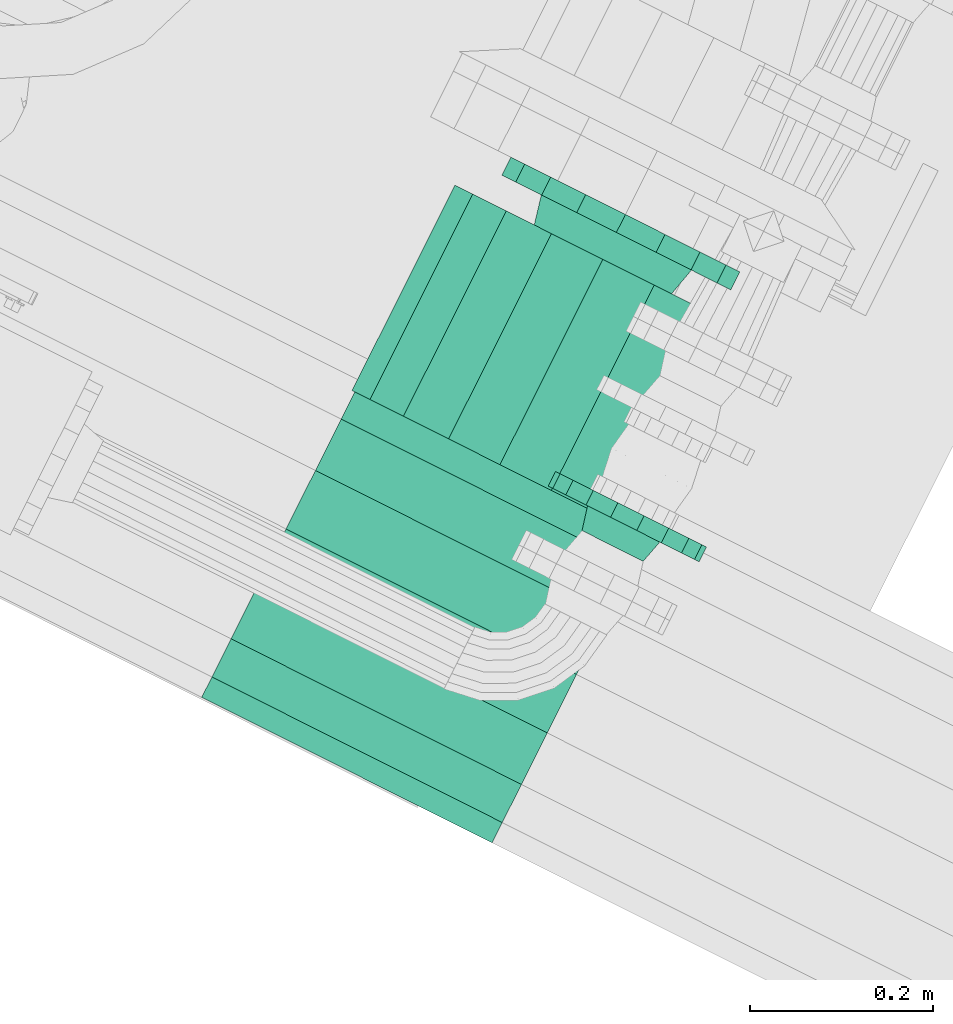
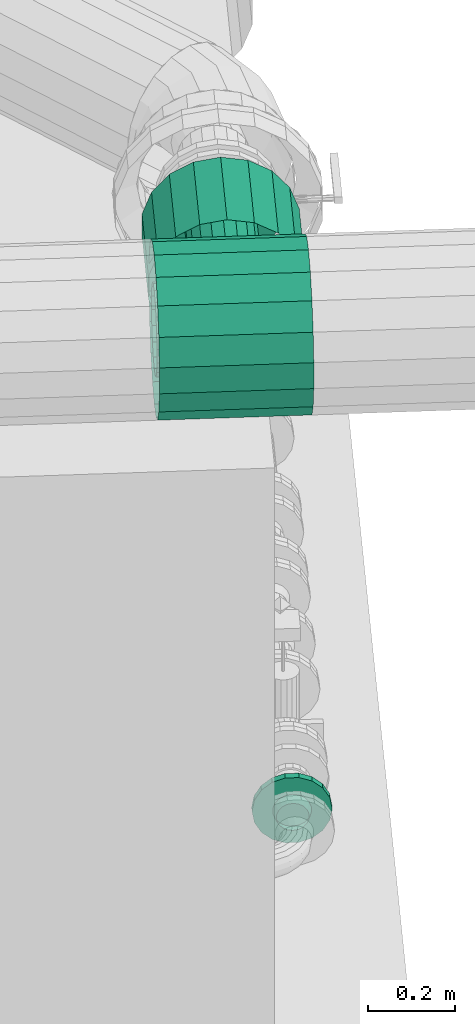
# One storey, part 53 of 206: 3 flow fittings, 1 flow segment.
"""IFC2X3 building model written with IfcOpenShell, lengths in metres."""

from ifc_helpers import new_model, si_unit, derived_unit, direction, frame, origin, place, context, subcontext, project, spatial, face_set, surface_model, source, transform, mapped, material, type_object, type_shapes, element, save


model = new_model("IFC2X3")

# Units and contexts
model_context = context("Model", 3, precision=5.2338327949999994e-05, world=origin(), true_north=direction((0.0, 1.0)))
body_context = subcontext(model_context, "Body", "Model", "MODEL_VIEW")
ifc_project = project(units=[si_unit("LENGTHUNIT", "METRE"), si_unit("AREAUNIT", "SQUARE_METRE"), si_unit("VOLUMEUNIT", "CUBIC_METRE"), si_unit("MASSUNIT", "GRAM", prefix="KILO"), si_unit("PLANEANGLEUNIT", "RADIAN"), derived_unit("THERMALTRANSMITTANCEUNIT", [(si_unit("MASSUNIT", "GRAM", prefix="KILO"), 1), (si_unit("THERMODYNAMICTEMPERATUREUNIT", "KELVIN"), -1), (si_unit("TIMEUNIT", "SECOND"), -3)])], contexts=[model_context])

# Site, building, storey
site_placement = place(None, frame((0.0, 0.0, 0.0), z_axis=(0.0, 0.0, 1.0), x_axis=(0.8939966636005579, -0.4480736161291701, 0.0)))
site = spatial("IfcSite", under=ifc_project, at=site_placement, Name="Default", CompositionType="ELEMENT")
building_placement = place(site_placement, origin())
building = spatial("IfcBuilding", under=site, at=building_placement, CompositionType="ELEMENT")
storey_placement = place(building_placement, origin())
storey = spatial("IfcBuildingStorey", under=building, at=storey_placement, Name="Erdgeschoss", CompositionType="ELEMENT", Elevation=0.0)

# Flow fittings
ifc_material_1 = material(Name="IfcSurfaceStyle #9317")
distribution_element_type_1 = type_object("IfcDistributionElementType", Name="Flansch 343454:Flansch 343454", material=ifc_material_1)
shared_shape_1 = source(origin(), body_context, "Body", "SurfaceModel", [
    surface_model("IfcFaceBasedSurfaceModel", [(27.295400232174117, 5.343912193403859, 2.4965000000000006), (27.24666236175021, 5.343912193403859, 2.4879061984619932), (27.24666236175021, 5.3219121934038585, 2.4879061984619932), (27.295400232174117, 5.3219121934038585, 2.4965000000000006), (27.20380299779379, 5.343912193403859, 2.463161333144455), (27.20380299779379, 5.3219121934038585, 2.463161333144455), (27.171991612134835, 5.343912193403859, 2.4252500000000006), (27.171991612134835, 5.3219121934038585, 2.4252500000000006), (27.155065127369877, 5.343912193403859, 2.378744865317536), (27.155065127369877, 5.3219121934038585, 2.378744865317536), (27.155065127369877, 5.343912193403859, 2.329255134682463), (27.155065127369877, 5.3219121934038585, 2.329255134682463), (27.171991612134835, 5.343912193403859, 2.2827499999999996), (27.171991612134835, 5.3219121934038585, 2.2827499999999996), (27.203802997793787, 5.343912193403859, 2.2448386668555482), (27.203802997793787, 5.3219121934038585, 2.2448386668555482), (27.246662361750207, 5.343912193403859, 2.2200938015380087), (27.246662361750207, 5.3219121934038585, 2.2200938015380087), (27.295400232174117, 5.343912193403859, 2.211500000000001), (27.295400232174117, 5.3219121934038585, 2.211500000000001), (27.344138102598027, 5.343912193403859, 2.2200938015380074), (27.344138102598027, 5.3219121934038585, 2.2200938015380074), (27.386997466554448, 5.343912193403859, 2.244838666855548), (27.386997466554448, 5.3219121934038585, 2.244838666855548), (27.4188088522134, 5.343912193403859, 2.2827500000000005), (27.4188088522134, 5.3219121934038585, 2.2827500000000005), (27.435735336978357, 5.343912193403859, 2.3292551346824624), (27.435735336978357, 5.3219121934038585, 2.3292551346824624), (27.435735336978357, 5.343912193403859, 2.378744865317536), (27.435735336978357, 5.3219121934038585, 2.378744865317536), (27.418808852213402, 5.343912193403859, 2.425249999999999), (27.418808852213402, 5.3219121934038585, 2.425249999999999), (27.38699746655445, 5.343912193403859, 2.4631613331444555), (27.38699746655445, 5.3219121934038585, 2.4631613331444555), (27.344138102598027, 5.343912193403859, 2.4879061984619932), (27.344138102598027, 5.3219121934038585, 2.4879061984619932), (27.295400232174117, 5.3219121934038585, 2.3539999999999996), (27.203400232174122, 5.3219121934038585, 2.354000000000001), (27.208948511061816, 5.3219121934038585, 2.3225341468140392), (27.216325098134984, 5.28891219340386, 2.325219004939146), (27.21125023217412, 5.288912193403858, 2.353999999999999), (27.224924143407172, 5.3219121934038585, 2.294863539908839), (27.23093759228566, 5.28891219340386, 2.299909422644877), (27.249400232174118, 5.3219121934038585, 2.274325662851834), (27.25332523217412, 5.28891219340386, 2.2811239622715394), (27.27942459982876, 5.3219121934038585, 2.2633976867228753), (27.28078773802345, 5.28891219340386, 2.2711284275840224), (27.31137586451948, 5.3219121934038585, 2.2633976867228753), (27.310012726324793, 5.28891219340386, 2.271128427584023), (27.34140023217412, 5.3219121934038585, 2.274325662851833), (27.337475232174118, 5.28891219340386, 2.281123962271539), (27.365876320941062, 5.321912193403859, 2.294863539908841), (27.35986287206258, 5.288912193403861, 2.29990942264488), (27.38185195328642, 5.321912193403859, 2.3225341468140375), (27.374475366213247, 5.288912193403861, 2.325219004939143), (27.38740023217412, 5.3219121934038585, 2.353999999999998), (27.379550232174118, 5.28891219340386, 2.3539999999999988), (27.38185195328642, 5.3219121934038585, 2.3854658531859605), (27.374475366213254, 5.28891219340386, 2.382780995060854), (27.365876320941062, 5.3219121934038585, 2.4131364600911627), (27.35986287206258, 5.28891219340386, 2.408090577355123), (27.34140023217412, 5.3219121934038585, 2.4336743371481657), (27.33747523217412, 5.28891219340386, 2.4268760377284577), (27.31137586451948, 5.3219121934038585, 2.444602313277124), (27.310012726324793, 5.28891219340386, 2.436871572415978), (27.279424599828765, 5.3219121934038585, 2.4446023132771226), (27.28078773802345, 5.28891219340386, 2.436871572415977), (27.249400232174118, 5.3219121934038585, 2.4336743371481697), (27.25332523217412, 5.28891219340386, 2.42687603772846), (27.224924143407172, 5.3219121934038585, 2.4131364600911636), (27.230937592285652, 5.28891219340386, 2.4080905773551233), (27.208948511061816, 5.3219121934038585, 2.3854658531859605), (27.216325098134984, 5.28891219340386, 2.382780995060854)], [face_set([[[0, 1, 2, 3]], [[1, 4, 5, 2]], [[4, 6, 7, 5]], [[6, 8, 9, 7]], [[8, 10, 11, 9]], [[10, 12, 13, 11]], [[12, 14, 15, 13]], [[14, 16, 17, 15]], [[16, 18, 19, 17]], [[18, 20, 21, 19]], [[20, 22, 23, 21]], [[22, 24, 25, 23]], [[24, 26, 27, 25]], [[26, 28, 29, 27]], [[28, 30, 31, 29]], [[30, 32, 33, 31]], [[32, 34, 35, 33]], [[34, 0, 3, 35]], [[36, 35, 3]], [[36, 33, 35]], [[36, 31, 33]], [[36, 29, 31]], [[36, 27, 29]], [[36, 25, 27]], [[36, 23, 25]], [[36, 21, 23]], [[36, 19, 21]], [[36, 17, 19]], [[36, 15, 17]], [[36, 13, 15]], [[36, 11, 13]], [[36, 9, 11]], [[36, 7, 9]], [[36, 5, 7]], [[36, 2, 5]], [[36, 3, 2]], [[37, 38, 39, 40]], [[38, 41, 42, 39]], [[41, 43, 44, 42]], [[43, 45, 46, 44]], [[45, 47, 48, 46]], [[47, 49, 50, 48]], [[49, 51, 52, 50]], [[51, 53, 54, 52]], [[53, 55, 56, 54]], [[55, 57, 58, 56]], [[57, 59, 60, 58]], [[59, 61, 62, 60]], [[61, 63, 64, 62]], [[63, 65, 66, 64]], [[65, 67, 68, 66]], [[67, 69, 70, 68]], [[69, 71, 72, 70]], [[71, 37, 40, 72]]])]),
])
type_shapes(distribution_element_type_1, [shared_shape_1])
flow_fitting_1_placement = place(storey_placement, origin())
element("IfcFlowFitting", 1, at=flow_fitting_1_placement, inside=storey, type_object=distribution_element_type_1, material=ifc_material_1, Name="Flansch", ObjectType="Flansch", context=body_context, shape_type="MappedRepresentation", body=[
    mapped(shared_shape_1, transform((0.0, 0.0, 0.0), scale=1.0)),
])
distribution_element_type_2 = type_object("IfcDistributionElementType", Name="Abzweigstück 343500:Abzweigstück 343500", material=ifc_material_1)
shared_shape_2 = source(origin(), body_context, "Body", "SurfaceModel", [
    surface_model("IfcFaceBasedSurfaceModel", [(27.47340023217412, 4.869312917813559, 2.2444499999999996), (27.47340023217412, 4.831844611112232, 2.251056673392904), (27.11740023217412, 4.831844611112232, 2.251056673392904), (27.11740023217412, 4.869312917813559, 2.2444499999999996), (27.47340023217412, 4.7988955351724, 2.270079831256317), (27.11740023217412, 4.7988955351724, 2.270079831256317), (27.47340023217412, 4.774439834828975, 2.299225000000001), (27.11740023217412, 4.774439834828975, 2.299225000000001), (27.47340023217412, 4.761427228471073, 2.3349768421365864), (27.11740023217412, 4.761427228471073, 2.3349768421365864), (27.47340023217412, 4.761427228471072, 2.3730231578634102), (27.11740023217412, 4.761427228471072, 2.3730231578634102), (27.47340023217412, 4.774439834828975, 2.4087750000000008), (27.11740023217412, 4.774439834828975, 2.4087750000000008), (27.47340023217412, 4.7988955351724, 2.437920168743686), (27.11740023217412, 4.7988955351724, 2.437920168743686), (27.47340023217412, 4.831844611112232, 2.4569433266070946), (27.11740023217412, 4.831844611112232, 2.4569433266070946), (27.47340023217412, 4.869312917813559, 2.4635500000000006), (27.11740023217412, 4.869312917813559, 2.4635500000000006), (27.47340023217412, 4.906781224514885, 2.456943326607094), (27.11740023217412, 4.906781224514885, 2.456943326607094), (27.47340023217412, 4.93973030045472, 2.4379201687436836), (27.11740023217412, 4.93973030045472, 2.4379201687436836), (27.47340023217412, 4.9641860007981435, 2.4087749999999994), (27.11740023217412, 4.9641860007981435, 2.4087749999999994), (27.47340023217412, 4.977198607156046, 2.3730231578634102), (27.11740023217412, 4.977198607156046, 2.3730231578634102), (27.47340023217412, 4.977198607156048, 2.334976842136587), (27.11740023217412, 4.977198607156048, 2.334976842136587), (27.47340023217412, 4.9641860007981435, 2.299225), (27.11740023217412, 4.9641860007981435, 2.299225), (27.47340023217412, 4.939730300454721, 2.270079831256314), (27.11740023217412, 4.939730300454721, 2.270079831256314), (27.47340023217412, 4.906781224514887, 2.2510566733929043), (27.11740023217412, 4.906781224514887, 2.2510566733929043), (27.211250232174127, 4.97886291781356, 2.3539999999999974), (27.21632509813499, 4.975014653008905, 2.3827809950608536), (27.216325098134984, 5.0373129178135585, 2.3827809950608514), (27.211250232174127, 5.0373129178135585, 2.3539999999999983), (27.23093759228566, 4.964577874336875, 2.4080905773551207), (27.23093759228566, 5.037312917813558, 2.4080905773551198), (27.25332523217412, 4.951107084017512, 2.4268760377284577), (27.25332523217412, 5.0373129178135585, 2.4268760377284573), (27.28078773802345, 4.940961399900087, 2.436871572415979), (27.28078773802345, 5.0373129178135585, 2.4368715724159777), (27.310012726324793, 4.940961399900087, 2.436871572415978), (27.310012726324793, 5.0373129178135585, 2.436871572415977), (27.337475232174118, 4.951107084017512, 2.426876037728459), (27.337475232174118, 5.0373129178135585, 2.426876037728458), (27.359862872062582, 4.964577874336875, 2.408090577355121), (27.359862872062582, 5.037312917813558, 2.4080905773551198), (27.374475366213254, 4.975014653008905, 2.3827809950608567), (27.374475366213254, 5.0373129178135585, 2.382780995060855), (27.379550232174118, 4.97886291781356, 2.3539999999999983), (27.379550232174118, 5.0373129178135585, 2.353999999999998), (27.374475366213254, 4.975014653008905, 2.325219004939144), (27.374475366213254, 5.0373129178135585, 2.3252190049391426), (27.359862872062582, 4.964577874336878, 2.2999094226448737), (27.359862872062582, 5.0373129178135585, 2.299909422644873), (27.337475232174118, 4.951107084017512, 2.2811239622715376), (27.337475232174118, 5.03731291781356, 2.2811239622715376), (27.310012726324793, 4.940961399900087, 2.2711284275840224), (27.310012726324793, 5.03731291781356, 2.271128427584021), (27.28078773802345, 4.940961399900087, 2.2711284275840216), (27.28078773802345, 5.03731291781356, 2.2711284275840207), (27.25332523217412, 4.951107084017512, 2.2811239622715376), (27.25332523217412, 5.03731291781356, 2.2811239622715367), (27.23093759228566, 4.964577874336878, 2.299909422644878), (27.230937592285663, 5.0373129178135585, 2.2999094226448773), (27.216325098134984, 4.975014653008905, 2.325219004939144), (27.216325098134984, 5.0373129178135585, 2.325219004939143), (27.47340023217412, 4.869312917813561, 2.144449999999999), (27.47340023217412, 4.7976425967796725, 2.15708741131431), (27.11740023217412, 4.797642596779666, 2.1570874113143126), (27.11740023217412, 4.869312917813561, 2.144450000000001), (27.47340023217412, 4.734616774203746, 2.1934753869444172), (27.11740023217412, 4.734616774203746, 2.1934753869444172), (27.47340023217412, 4.6878372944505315, 2.2492250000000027), (27.11740023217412, 4.6878372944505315, 2.2492250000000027), (27.47340023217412, 4.662946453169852, 2.317612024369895), (27.11740023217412, 4.662946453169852, 2.317612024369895), (27.47340023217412, 4.662946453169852, 2.390387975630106), (27.11740023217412, 4.662946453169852, 2.390387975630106), (27.47340023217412, 4.68783729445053, 2.458775), (27.11740023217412, 4.68783729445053, 2.458775), (27.47340023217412, 4.734616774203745, 2.514524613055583), (27.11740023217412, 4.734616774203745, 2.514524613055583), (27.47340023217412, 4.797642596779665, 2.550912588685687), (27.11740023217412, 4.797642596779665, 2.550912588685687), (27.47340023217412, 4.869312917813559, 2.563549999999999), (27.11740023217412, 4.869312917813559, 2.563549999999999), (27.47340023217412, 4.940983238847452, 2.550912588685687), (27.11740023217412, 4.940983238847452, 2.550912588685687), (27.47340023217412, 5.004009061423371, 2.514524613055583), (27.11740023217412, 5.004009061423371, 2.514524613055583), (27.47340023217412, 5.050788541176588, 2.458774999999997), (27.11740023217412, 5.050788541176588, 2.458774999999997), (27.47340023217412, 5.075679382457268, 2.3903879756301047), (27.11740023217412, 5.075679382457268, 2.3903879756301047), (27.47340023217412, 5.075679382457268, 2.3176120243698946), (27.11740023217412, 5.075679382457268, 2.3176120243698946), (27.47340023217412, 5.05078854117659, 2.2492249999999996), (27.11740023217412, 5.05078854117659, 2.2492249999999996), (27.47340023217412, 5.004009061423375, 2.193475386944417), (27.11740023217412, 5.004009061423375, 2.193475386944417), (27.47340023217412, 4.940983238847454, 2.157087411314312), (27.11740023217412, 4.940983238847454, 2.157087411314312)], [face_set([[[0, 1, 2, 3]], [[1, 4, 5, 2]], [[4, 6, 7, 5]], [[6, 8, 9, 7]], [[8, 10, 11, 9]], [[10, 12, 13, 11]], [[12, 14, 15, 13]], [[14, 16, 17, 15]], [[16, 18, 19, 17]], [[18, 20, 21, 19]], [[20, 22, 23, 21]], [[22, 24, 25, 23]], [[24, 26, 27, 25]], [[26, 28, 29, 27]], [[28, 30, 31, 29]], [[30, 32, 33, 31]], [[32, 34, 35, 33]], [[34, 0, 3, 35]], [[36, 37, 38, 39]], [[37, 40, 41, 38]], [[40, 42, 43, 41]], [[42, 44, 45, 43]], [[44, 46, 47, 45]], [[46, 48, 49, 47]], [[48, 50, 51, 49]], [[50, 52, 53, 51]], [[52, 54, 55, 53]], [[54, 56, 57, 55]], [[56, 58, 59, 57]], [[58, 60, 61, 59]], [[60, 62, 63, 61]], [[62, 64, 65, 63]], [[64, 66, 67, 65]], [[66, 68, 69, 67]], [[68, 70, 71, 69]], [[70, 36, 39, 71]], [[72, 73, 74, 75]], [[73, 76, 77, 74]], [[76, 78, 79, 77]], [[78, 80, 81, 79]], [[80, 82, 83, 81]], [[82, 84, 85, 83]], [[84, 86, 87, 85]], [[86, 88, 89, 87]], [[88, 90, 91, 89]], [[90, 92, 93, 91]], [[92, 94, 95, 93]], [[94, 96, 97, 95]], [[96, 98, 99, 97]], [[98, 100, 101, 99]], [[100, 102, 103, 101]], [[102, 104, 105, 103]], [[104, 106, 107, 105]], [[106, 72, 75, 107]]])]),
])
type_shapes(distribution_element_type_2, [shared_shape_2])
flow_fitting_2_placement = place(storey_placement, origin())
element("IfcFlowFitting", 2, at=flow_fitting_2_placement, inside=storey, type_object=distribution_element_type_2, material=ifc_material_1, Name="Abzweigstück", ObjectType="Abzweigstück", context=body_context, shape_type="MappedRepresentation", body=[
    mapped(shared_shape_2, transform((0.0, 0.0, 0.0), scale=1.0)),
])

# Flow segment
distribution_element_type_3 = type_object("IfcDistributionElementType", Name="Stahlrohr nach DIN 2448 344085:Stahlrohr nach DIN 2448 344085", material=ifc_material_1)
shared_shape_3 = source(origin(), body_context, "Body", "SurfaceModel", [
    surface_model("IfcFaceBasedSurfaceModel", [(27.295400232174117, 5.28891219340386, 2.2698500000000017), (27.32418122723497, 5.28891219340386, 2.2749248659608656), (27.32418122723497, 5.037312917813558, 2.2749248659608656), (27.295400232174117, 5.037312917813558, 2.2698500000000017), (27.34949080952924, 5.28891219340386, 2.289537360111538), (27.349490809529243, 5.037312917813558, 2.2895373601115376), (27.36827626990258, 5.28891219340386, 2.3119249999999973), (27.36827626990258, 5.037312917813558, 2.3119249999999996), (27.378271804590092, 5.28891219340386, 2.339387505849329), (27.378271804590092, 5.037312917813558, 2.339387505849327), (27.378271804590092, 5.28891219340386, 2.3686124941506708), (27.378271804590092, 5.037312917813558, 2.368612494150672), (27.368276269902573, 5.28891219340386, 2.396074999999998), (27.368276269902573, 5.037312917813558, 2.3960749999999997), (27.34949080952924, 5.28891219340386, 2.418462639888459), (27.34949080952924, 5.037312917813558, 2.4184626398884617), (27.32418122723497, 5.28891219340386, 2.4330751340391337), (27.324181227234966, 5.037312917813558, 2.433075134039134), (27.295400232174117, 5.288912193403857, 2.4381500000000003), (27.295400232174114, 5.037312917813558, 2.4381500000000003), (27.266619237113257, 5.28891219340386, 2.4330751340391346), (27.266619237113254, 5.037312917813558, 2.4330751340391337), (27.24130965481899, 5.28891219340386, 2.4184626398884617), (27.241309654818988, 5.037312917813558, 2.418462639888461), (27.22252419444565, 5.28891219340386, 2.396075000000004), (27.22252419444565, 5.037312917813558, 2.3960750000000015), (27.21252865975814, 5.28891219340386, 2.3686124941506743), (27.21252865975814, 5.037312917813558, 2.368612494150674), (27.212528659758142, 5.28891219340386, 2.339387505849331), (27.21252865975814, 5.037312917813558, 2.3393875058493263), (27.222524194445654, 5.28891219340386, 2.3119250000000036), (27.222524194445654, 5.037312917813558, 2.311925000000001), (27.24130965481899, 5.28891219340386, 2.289537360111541), (27.241309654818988, 5.037312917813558, 2.28953736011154), (27.266619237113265, 5.28891219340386, 2.2749248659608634), (27.266619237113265, 5.037312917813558, 2.274924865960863), (27.295400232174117, 5.28891219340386, 2.169850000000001), (27.358383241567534, 5.28891219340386, 2.180955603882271), (27.358383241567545, 5.037312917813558, 2.180955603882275), (27.295400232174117, 5.037312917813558, 2.1698500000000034), (27.413769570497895, 5.28891219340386, 2.2129329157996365), (27.413769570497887, 5.037312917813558, 2.21293291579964), (27.45487881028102, 5.28891219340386, 2.2619249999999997), (27.454878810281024, 5.037312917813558, 2.261925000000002), (27.47675257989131, 5.28891219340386, 2.3220226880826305), (27.47675257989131, 5.037312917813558, 2.322022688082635), (27.47675257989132, 5.28891219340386, 2.3859773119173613), (27.476752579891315, 5.037312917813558, 2.385977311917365), (27.454878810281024, 5.28891219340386, 2.446074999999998), (27.45487881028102, 5.037312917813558, 2.4460750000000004), (27.413769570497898, 5.28891219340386, 2.49506708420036), (27.413769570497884, 5.037312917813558, 2.4950670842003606), (27.358383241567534, 5.28891219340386, 2.5270443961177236), (27.35838324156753, 5.037312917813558, 2.5270443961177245), (27.295400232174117, 5.28891219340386, 2.5381500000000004), (27.295400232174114, 5.037312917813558, 2.5381499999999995), (27.232417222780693, 5.28891219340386, 2.5270443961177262), (27.232417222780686, 5.037312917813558, 2.5270443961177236), (27.177030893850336, 5.28891219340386, 2.495067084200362), (27.177030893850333, 5.037312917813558, 2.495067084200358), (27.13592165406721, 5.28891219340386, 2.4460750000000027), (27.13592165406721, 5.037312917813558, 2.446074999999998), (27.11404788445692, 5.28891219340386, 2.3859773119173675), (27.114047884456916, 5.037312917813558, 2.385977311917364), (27.11404788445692, 5.28891219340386, 2.3220226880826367), (27.11404788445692, 5.037312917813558, 2.3220226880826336), (27.13592165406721, 5.28891219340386, 2.2619250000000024), (27.13592165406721, 5.037312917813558, 2.261924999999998), (27.17703089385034, 5.28891219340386, 2.2129329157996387), (27.17703089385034, 5.037312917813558, 2.2129329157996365), (27.23241722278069, 5.28891219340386, 2.1809556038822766), (27.232417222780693, 5.037312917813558, 2.1809556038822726)], [face_set([[[0, 1, 2, 3]], [[1, 4, 5, 2]], [[4, 6, 7, 5]], [[6, 8, 9, 7]], [[8, 10, 11, 9]], [[10, 12, 13, 11]], [[12, 14, 15, 13]], [[14, 16, 17, 15]], [[16, 18, 19, 17]], [[18, 20, 21, 19]], [[20, 22, 23, 21]], [[22, 24, 25, 23]], [[24, 26, 27, 25]], [[26, 28, 29, 27]], [[28, 30, 31, 29]], [[30, 32, 33, 31]], [[32, 34, 35, 33]], [[34, 0, 3, 35]], [[36, 37, 38, 39]], [[37, 40, 41, 38]], [[40, 42, 43, 41]], [[42, 44, 45, 43]], [[44, 46, 47, 45]], [[46, 48, 49, 47]], [[48, 50, 51, 49]], [[50, 52, 53, 51]], [[52, 54, 55, 53]], [[54, 56, 57, 55]], [[56, 58, 59, 57]], [[58, 60, 61, 59]], [[60, 62, 63, 61]], [[62, 64, 65, 63]], [[64, 66, 67, 65]], [[66, 68, 69, 67]], [[68, 70, 71, 69]], [[70, 36, 39, 71]]])]),
])
type_shapes(distribution_element_type_3, [shared_shape_3])
flow_segment_placement = place(storey_placement, origin())
element("IfcFlowSegment", 3, at=flow_segment_placement, inside=storey, type_object=distribution_element_type_3, material=ifc_material_1, Name="Stahlrohr nach DIN 2448", ObjectType="Stahlrohr nach DIN 2448", context=body_context, shape_type="MappedRepresentation", body=[
    mapped(shared_shape_3, transform((0.0, 0.0, 0.0), scale=1.0)),
])

# Flow fitting
ifc_material_2 = material(Name="IfcSurfaceStyle #352577")
distribution_element_type_4 = type_object("IfcDistributionElementType", Name="Flansch 604385:Flansch 604385", material=ifc_material_2)
shared_shape_4 = source(origin(), body_context, "Body", "SurfaceModel", [
    surface_model("IfcFaceBasedSurfaceModel", [(27.445642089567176, 5.012958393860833, 0.9080499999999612), (27.458655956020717, 5.01295839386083, 0.9057553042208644), (27.46103299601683, 5.0399583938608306, 0.912286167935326), (27.445642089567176, 5.0399583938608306, 0.9149999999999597), (27.47010015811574, 5.01295839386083, 0.8991479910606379), (27.474567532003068, 5.039958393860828, 0.9044719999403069), (27.478594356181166, 5.012958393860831, 0.8890249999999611), (27.48461323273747, 5.039958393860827, 0.8924999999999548), (27.48311402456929, 5.012958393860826, 0.8766073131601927), (27.489958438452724, 5.039958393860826, 0.8778141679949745), (27.483114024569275, 5.012958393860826, 0.8633926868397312), (27.48995843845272, 5.039958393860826, 0.8621858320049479), (27.478594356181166, 5.012958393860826, 0.8509749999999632), (27.484613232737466, 5.039958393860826, 0.8474999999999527), (27.47010015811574, 5.012958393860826, 0.8408520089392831), (27.474567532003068, 5.039958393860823, 0.835528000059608), (27.458655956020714, 5.012958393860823, 0.8342446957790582), (27.461032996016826, 5.039958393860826, 0.8277138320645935), (27.445642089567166, 5.012958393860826, 0.8319499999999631), (27.445642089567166, 5.039958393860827, 0.8249999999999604), (27.43262822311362, 5.012958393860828, 0.8342446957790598), (27.43025118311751, 5.039958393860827, 0.8277138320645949), (27.421184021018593, 5.012958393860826, 0.8408520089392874), (27.416716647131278, 5.039958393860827, 0.8355280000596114), (27.412689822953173, 5.012958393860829, 0.8509749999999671), (27.406670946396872, 5.039958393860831, 0.8474999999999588), (27.40817015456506, 5.012958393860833, 0.8633926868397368), (27.401325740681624, 5.0399583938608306, 0.8621858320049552), (27.40817015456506, 5.012958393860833, 0.8766073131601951), (27.40132574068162, 5.039958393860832, 0.8778141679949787), (27.412689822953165, 5.012958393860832, 0.8890249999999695), (27.406670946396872, 5.039958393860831, 0.8924999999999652), (27.421184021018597, 5.012958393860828, 0.8991479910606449), (27.41671664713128, 5.039958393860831, 0.9044719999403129), (27.432628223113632, 5.012958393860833, 0.9057553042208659), (27.430251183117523, 5.039958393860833, 0.9122861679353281), (27.538142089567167, 5.039958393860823, 0.8699999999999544), (27.53256365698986, 5.039958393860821, 0.8383631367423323), (27.53256365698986, 5.05795839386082, 0.8383631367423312), (27.538142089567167, 5.057958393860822, 0.8699999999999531), (27.516501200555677, 5.039958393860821, 0.8105421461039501), (27.516501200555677, 5.05795839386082, 0.8105421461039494), (27.491892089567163, 5.039958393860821, 0.7898926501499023), (27.49189208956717, 5.05795839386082, 0.7898926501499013), (27.461704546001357, 5.03995839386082, 0.7789052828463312), (27.461704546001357, 5.05795839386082, 0.7789052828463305), (27.42957963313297, 5.039958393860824, 0.7789052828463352), (27.42957963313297, 5.057958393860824, 0.7789052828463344), (27.399392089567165, 5.039958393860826, 0.7898926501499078), (27.399392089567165, 5.057958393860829, 0.7898926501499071), (27.374782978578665, 5.039958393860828, 0.8105421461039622), (27.374782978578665, 5.057958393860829, 0.8105421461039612), (27.358720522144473, 5.039958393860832, 0.8383631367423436), (27.358720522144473, 5.057958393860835, 0.838363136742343), (27.353142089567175, 5.039958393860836, 0.8699999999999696), (27.35314208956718, 5.057958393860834, 0.8699999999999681), (27.358720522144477, 5.039958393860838, 0.9016368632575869), (27.358720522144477, 5.057958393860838, 0.9016368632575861), (27.37478297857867, 5.039958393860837, 0.9294578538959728), (27.37478297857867, 5.0579583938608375, 0.929457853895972), (27.39939208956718, 5.039958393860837, 0.9501073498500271), (27.399392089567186, 5.0579583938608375, 0.9501073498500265), (27.42957963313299, 5.039958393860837, 0.9610947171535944), (27.42957963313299, 5.057958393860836, 0.9610947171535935), (27.461704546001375, 5.039958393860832, 0.9610947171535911), (27.461704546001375, 5.057958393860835, 0.9610947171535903), (27.49189208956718, 5.0399583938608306, 0.9501073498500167), (27.49189208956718, 5.05795839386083, 0.9501073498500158), (27.516501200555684, 5.0399583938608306, 0.9294578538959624), (27.516501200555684, 5.057958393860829, 0.9294578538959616), (27.532563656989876, 5.039958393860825, 0.9016368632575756), (27.532563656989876, 5.057958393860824, 0.9016368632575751), (27.445642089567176, 5.039958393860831, 0.8699999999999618)], [face_set([[[0, 1, 2, 3]], [[1, 4, 5, 2]], [[4, 6, 7, 5]], [[6, 8, 9, 7]], [[8, 10, 11, 9]], [[10, 12, 13, 11]], [[12, 14, 15, 13]], [[14, 16, 17, 15]], [[16, 18, 19, 17]], [[18, 20, 21, 19]], [[20, 22, 23, 21]], [[22, 24, 25, 23]], [[24, 26, 27, 25]], [[26, 28, 29, 27]], [[28, 30, 31, 29]], [[30, 32, 33, 31]], [[32, 34, 35, 33]], [[34, 0, 3, 35]], [[36, 37, 38, 39]], [[37, 40, 41, 38]], [[40, 42, 43, 41]], [[42, 44, 45, 43]], [[44, 46, 47, 45]], [[46, 48, 49, 47]], [[48, 50, 51, 49]], [[50, 52, 53, 51]], [[52, 54, 55, 53]], [[54, 56, 57, 55]], [[56, 58, 59, 57]], [[58, 60, 61, 59]], [[60, 62, 63, 61]], [[62, 64, 65, 63]], [[64, 66, 67, 65]], [[66, 68, 69, 67]], [[68, 70, 71, 69]], [[70, 36, 39, 71]], [[72, 37, 36]], [[72, 40, 37]], [[72, 42, 40]], [[72, 44, 42]], [[72, 46, 44]], [[72, 48, 46]], [[72, 50, 48]], [[72, 52, 50]], [[72, 54, 52]], [[72, 56, 54]], [[72, 58, 56]], [[72, 60, 58]], [[72, 62, 60]], [[72, 64, 62]], [[72, 66, 64]], [[72, 68, 66]], [[72, 70, 68]], [[72, 36, 70]]])]),
])
type_shapes(distribution_element_type_4, [shared_shape_4])
flow_fitting_3_placement = place(storey_placement, origin())
element("IfcFlowFitting", 4, at=flow_fitting_3_placement, inside=storey, type_object=distribution_element_type_4, material=ifc_material_2, Name="Flansch", ObjectType="Flansch", context=body_context, shape_type="MappedRepresentation", body=[
    mapped(shared_shape_4, transform((0.0, 0.0, 0.0), scale=1.0)),
])

save(model, "model.ifc")
